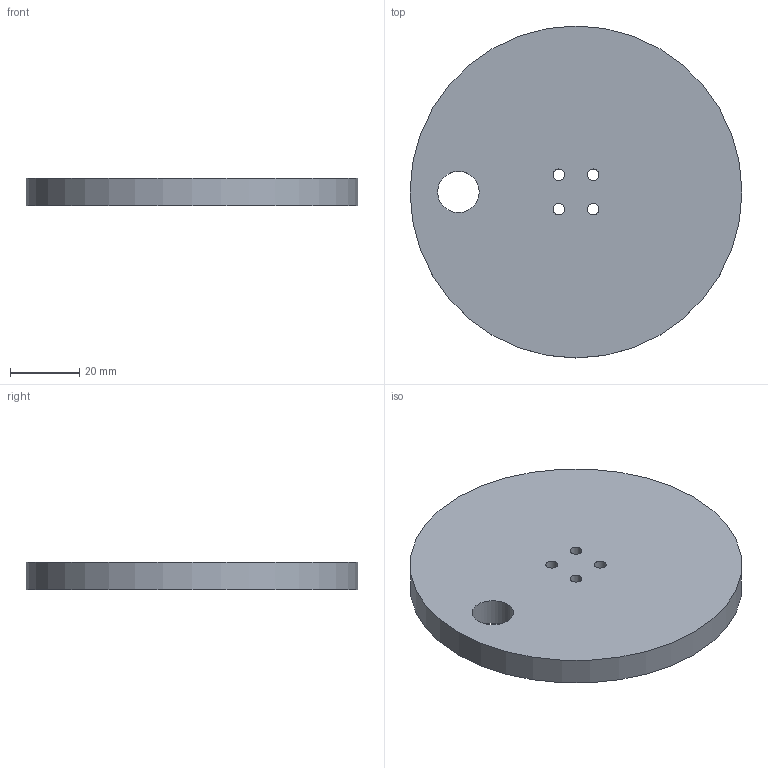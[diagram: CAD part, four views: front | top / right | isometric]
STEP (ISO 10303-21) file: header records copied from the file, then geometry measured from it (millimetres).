
FILE_DESCRIPTION(('Open CASCADE Model'),'2;1');
FILE_NAME('Open CASCADE Shape Model','2026-07-25T17:42:38',('Author'),( 'Open CASCADE'),'Open CASCADE STEP processor 7.9','build123d', 'Unknown');
FILE_SCHEMA(('AUTOMOTIVE_DESIGN { 1 0 10303 214 1 1 1 1 }'));
Length unit declared in the file: millimetre
Products named in the file (1): COMPOUND
Bounding box: 96 x 96 x 8 mm (x, y, z)
Volume: 56701.3 mm3; surface area: 17309.6 mm2
Topology: 1 solids, 1 shells, 513 faces, 1401 edges, 934 vertices
Faces by surface type: extrusion 299, plane 208, cylinder 6
Full cylindrical faces by diameter (mm): 3.4 x4, 12 x1, 96 x1
Entity records: 39084 total; most frequent: CARTESIAN_POINT 14243, DIRECTION 3125, ORIENTED_EDGE 2802, PCURVE 2802, DEFINITIONAL_REPRESENTATION 2802, VECTOR 2659, LINE 2360, B_SPLINE_CURVE_WITH_KNOTS 2118
